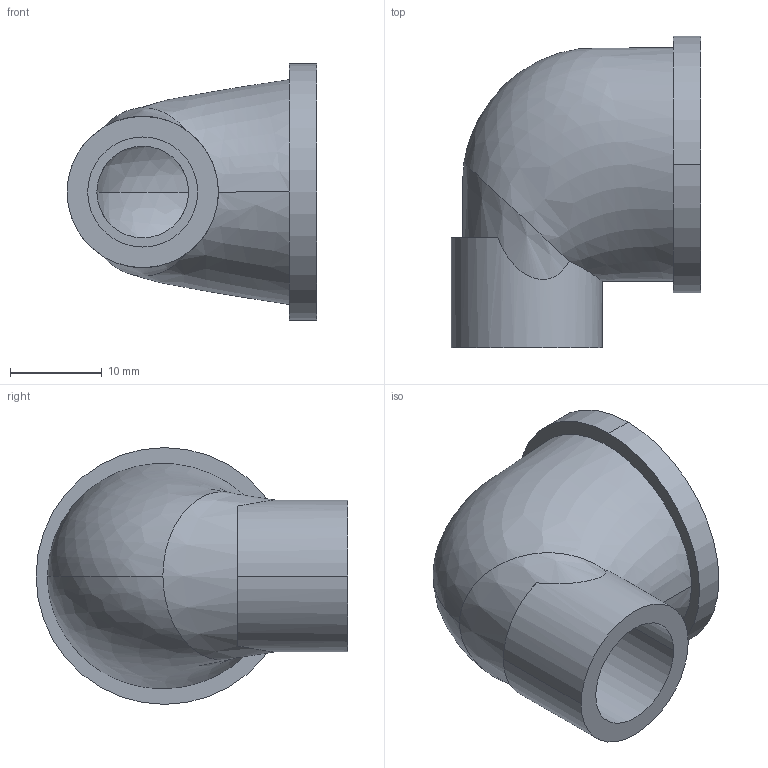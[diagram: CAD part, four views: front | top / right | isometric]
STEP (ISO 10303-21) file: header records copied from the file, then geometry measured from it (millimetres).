
FILE_DESCRIPTION (( 'STEP AP203' ), '1' );
FILE_NAME ('12x12.STEP', '2024-02-26T01:40:40', ( '' ), ( '' ), 'SwSTEP 2.0', 'SolidWorks 2018', '' );
FILE_SCHEMA (( 'CONFIG_CONTROL_DESIGN' ));
Length unit declared in the file: millimetre
Products named in the file (1): 12x12
Bounding box: 27.25 x 34 x 28 mm (x, y, z)
Volume: 4651.4 mm3; surface area: 5268.6 mm2
Topology: 1 solids, 1 shells, 37 faces, 96 edges, 63 vertices
Faces by surface type: cylinder 18, bspline 9, plane 8, cone 2
Entity records: 3282 total; most frequent: CARTESIAN_POINT 2434, ORIENTED_EDGE 192, DIRECTION 122, EDGE_CURVE 96, VERTEX_POINT 63, AXIS2_PLACEMENT_3D 51, EDGE_LOOP 41, ADVANCED_FACE 37
